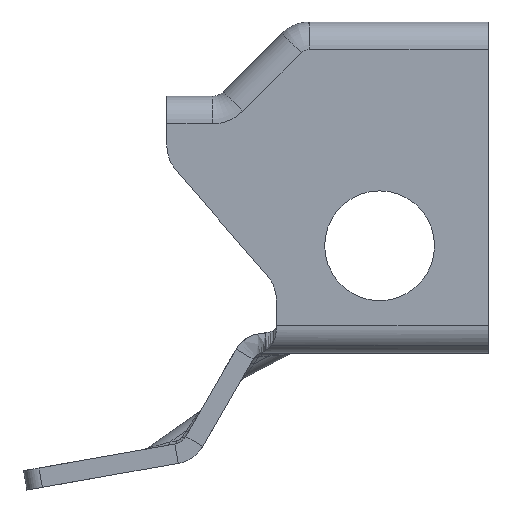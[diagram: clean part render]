
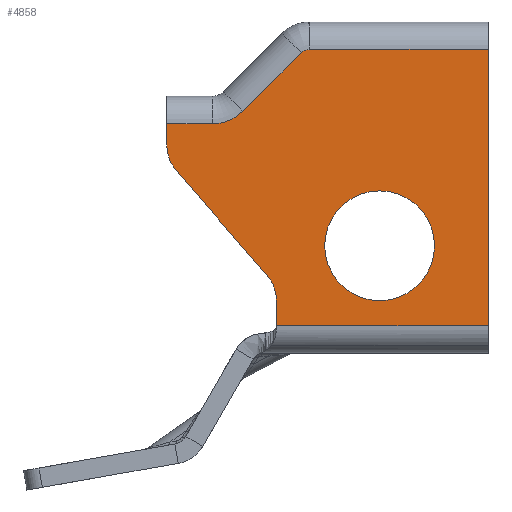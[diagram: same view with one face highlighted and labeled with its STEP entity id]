
A CAD part, front view. The second image highlights one B-rep face of the part: STEP entity #4858.
In plain terms, the highlighted planar face has unit normal (0, -1, 0).
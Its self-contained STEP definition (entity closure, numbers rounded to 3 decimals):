
#4054=VECTOR('Line Direction',#4053,1.) ;
#4693=VECTOR('Line Direction',#4692,1.) ;
#4736=VECTOR('Line Direction',#4735,1.) ;
#4759=VECTOR('Line Direction',#4758,1.) ;
#4773=VECTOR('Line Direction',#4772,1.) ;
#4780=VECTOR('Line Direction',#4779,1.) ;
#4794=VECTOR('Line Direction',#4793,1.) ;
#4806=VECTOR('Line Direction',#4805,1.) ;
#4053=DIRECTION('Vector Direction',(1.,0.,0.)) ;
#4692=DIRECTION('Vector Direction',(0.,0.,1.)) ;
#4730=DIRECTION('Axis2P3D Direction',(0.,1.,0.)) ;
#4731=DIRECTION('Axis2P3D XDirection',(-1.,0.,0.)) ;
#4735=DIRECTION('Vector Direction',(1.,0.,0.)) ;
#4744=DIRECTION('Axis2P3D Direction',(0.,1.,0.)) ;
#4751=DIRECTION('Axis2P3D Direction',(0.,1.,0.)) ;
#4758=DIRECTION('Vector Direction',(0.707,0.,0.707)) ;
#4765=DIRECTION('Axis2P3D Direction',(0.,1.,0.)) ;
#4772=DIRECTION('Vector Direction',(-1.,0.,0.)) ;
#4779=DIRECTION('Vector Direction',(0.,0.,1.)) ;
#4786=DIRECTION('Axis2P3D Direction',(0.,1.,0.)) ;
#4793=DIRECTION('Vector Direction',(-0.654,0.,0.757)) ;
#4800=DIRECTION('Axis2P3D Direction',(0.,1.,0.)) ;
#4805=DIRECTION('Vector Direction',(0.,0.,1.)) ;
#4825=DIRECTION('Axis2P3D Direction',(0.,1.,0.)) ;
#4834=DIRECTION('Axis2P3D Direction',(0.,1.,0.)) ;
#4841=DIRECTION('Axis2P3D Direction',(0.,1.,0.)) ;
#4848=DIRECTION('Axis2P3D Direction',(0.,1.,0.)) ;
#3772=CARTESIAN_POINT('Vertex',(-441.207,-930.43,483.601)) ;
#4049=CARTESIAN_POINT('Vertex',(-414.207,-930.43,483.591)) ;
#4052=CARTESIAN_POINT('Line Origine',(-433.207,-930.43,483.598)) ;
#4691=CARTESIAN_POINT('Line Origine',(-441.207,-930.43,485.17)) ;
#4695=CARTESIAN_POINT('Vertex',(-441.206,-930.43,486.739)) ;
#4729=CARTESIAN_POINT('Axis2P3D Location',(-31.645,-930.426,385.347)) ;
#4734=CARTESIAN_POINT('Line Origine',(-425.604,-930.43,518.823)) ;
#4738=CARTESIAN_POINT('Vertex',(-414.195,-930.43,518.819)) ;
#4740=CARTESIAN_POINT('Vertex',(-437.014,-930.43,518.827)) ;
#4743=CARTESIAN_POINT('Axis2P3D Location',(-437.014,-930.43,517.327)) ;
#4747=CARTESIAN_POINT('Vertex',(-437.032,-930.43,518.827)) ;
#4750=CARTESIAN_POINT('Axis2P3D Location',(-437.014,-930.43,517.327)) ;
#4754=CARTESIAN_POINT('Vertex',(-438.075,-930.43,518.388)) ;
#4757=CARTESIAN_POINT('Line Origine',(-441.795,-930.43,514.67)) ;
#4761=CARTESIAN_POINT('Vertex',(-445.516,-930.43,510.952)) ;
#4764=CARTESIAN_POINT('Axis2P3D Location',(-449.403,-930.43,514.843)) ;
#4768=CARTESIAN_POINT('Vertex',(-449.405,-930.43,509.343)) ;
#4771=CARTESIAN_POINT('Line Origine',(-452.302,-930.43,509.344)) ;
#4775=CARTESIAN_POINT('Vertex',(-455.198,-930.43,509.345)) ;
#4778=CARTESIAN_POINT('Line Origine',(-455.199,-930.43,508.)) ;
#4782=CARTESIAN_POINT('Vertex',(-455.199,-930.43,506.656)) ;
#4785=CARTESIAN_POINT('Axis2P3D Location',(-450.199,-930.43,506.654)) ;
#4789=CARTESIAN_POINT('Vertex',(-453.982,-930.43,503.385)) ;
#4792=CARTESIAN_POINT('Line Origine',(-448.203,-930.43,496.697)) ;
#4796=CARTESIAN_POINT('Vertex',(-442.423,-930.43,490.01)) ;
#4799=CARTESIAN_POINT('Axis2P3D Location',(-446.206,-930.43,486.74)) ;
#4804=CARTESIAN_POINT('Line Origine',(-414.201,-930.43,501.205)) ;
#4824=CARTESIAN_POINT('Axis2P3D Location',(-428.071,-930.43,493.796)) ;
#4828=CARTESIAN_POINT('Vertex',(-428.071,-930.43,486.796)) ;
#4830=CARTESIAN_POINT('Vertex',(-421.071,-930.43,493.796)) ;
#4833=CARTESIAN_POINT('Axis2P3D Location',(-428.071,-930.43,493.796)) ;
#4837=CARTESIAN_POINT('Vertex',(-435.071,-930.43,493.796)) ;
#4840=CARTESIAN_POINT('Axis2P3D Location',(-428.071,-930.43,493.796)) ;
#4844=CARTESIAN_POINT('Vertex',(-428.071,-930.43,500.796)) ;
#4847=CARTESIAN_POINT('Axis2P3D Location',(-428.071,-930.43,493.796)) ;
#4732=AXIS2_PLACEMENT_3D('Plane Axis2P3D',#4729,#4730,#4731) ;
#4745=AXIS2_PLACEMENT_3D('Circle Axis2P3D',#4743,#4744,$) ;
#4752=AXIS2_PLACEMENT_3D('Circle Axis2P3D',#4750,#4751,$) ;
#4766=AXIS2_PLACEMENT_3D('Circle Axis2P3D',#4764,#4765,$) ;
#4787=AXIS2_PLACEMENT_3D('Circle Axis2P3D',#4785,#4786,$) ;
#4801=AXIS2_PLACEMENT_3D('Circle Axis2P3D',#4799,#4800,$) ;
#4826=AXIS2_PLACEMENT_3D('Circle Axis2P3D',#4824,#4825,$) ;
#4835=AXIS2_PLACEMENT_3D('Circle Axis2P3D',#4833,#4834,$) ;
#4842=AXIS2_PLACEMENT_3D('Circle Axis2P3D',#4840,#4841,$) ;
#4849=AXIS2_PLACEMENT_3D('Circle Axis2P3D',#4847,#4848,$) ;
#4857=FACE_BOUND('',#4852,.T.) ;
#4056=EDGE_CURVE('',#3773,#4050,#4055,.T.) ;
#4697=EDGE_CURVE('',#3773,#4696,#4694,.T.) ;
#4742=EDGE_CURVE('',#4739,#4741,#4737,.F.) ;
#4749=EDGE_CURVE('',#4741,#4748,#4746,.F.) ;
#4756=EDGE_CURVE('',#4748,#4755,#4753,.F.) ;
#4763=EDGE_CURVE('',#4755,#4762,#4760,.F.) ;
#4770=EDGE_CURVE('',#4762,#4769,#4767,.T.) ;
#4777=EDGE_CURVE('',#4769,#4776,#4774,.T.) ;
#4784=EDGE_CURVE('',#4776,#4783,#4781,.F.) ;
#4791=EDGE_CURVE('',#4790,#4783,#4788,.T.) ;
#4798=EDGE_CURVE('',#4797,#4790,#4795,.T.) ;
#4803=EDGE_CURVE('',#4797,#4696,#4802,.T.) ;
#4808=EDGE_CURVE('',#4050,#4739,#4807,.T.) ;
#4832=EDGE_CURVE('',#4829,#4831,#4827,.F.) ;
#4839=EDGE_CURVE('',#4838,#4829,#4836,.F.) ;
#4846=EDGE_CURVE('',#4838,#4845,#4843,.T.) ;
#4851=EDGE_CURVE('',#4845,#4831,#4850,.T.) ;
#4733=PLANE('Plane',#4732) ;
#4810=ORIENTED_EDGE('',*,*,#4742,.T.) ;
#4811=ORIENTED_EDGE('',*,*,#4749,.T.) ;
#4812=ORIENTED_EDGE('',*,*,#4756,.T.) ;
#4813=ORIENTED_EDGE('',*,*,#4763,.T.) ;
#4814=ORIENTED_EDGE('',*,*,#4770,.T.) ;
#4815=ORIENTED_EDGE('',*,*,#4777,.T.) ;
#4816=ORIENTED_EDGE('',*,*,#4784,.T.) ;
#4817=ORIENTED_EDGE('',*,*,#4791,.F.) ;
#4818=ORIENTED_EDGE('',*,*,#4798,.F.) ;
#4819=ORIENTED_EDGE('',*,*,#4803,.T.) ;
#4820=ORIENTED_EDGE('',*,*,#4697,.F.) ;
#4821=ORIENTED_EDGE('',*,*,#4056,.T.) ;
#4822=ORIENTED_EDGE('',*,*,#4808,.T.) ;
#4853=ORIENTED_EDGE('',*,*,#4832,.F.) ;
#4854=ORIENTED_EDGE('',*,*,#4839,.F.) ;
#4855=ORIENTED_EDGE('',*,*,#4846,.T.) ;
#4856=ORIENTED_EDGE('',*,*,#4851,.T.) ;
#4055=LINE('Line',#4052,#4054) ;
#4694=LINE('Line',#4691,#4693) ;
#4737=LINE('Line',#4734,#4736) ;
#4760=LINE('Line',#4757,#4759) ;
#4774=LINE('Line',#4771,#4773) ;
#4781=LINE('Line',#4778,#4780) ;
#4795=LINE('Line',#4792,#4794) ;
#4807=LINE('Line',#4804,#4806) ;
#4858=ADVANCED_FACE('\X2\96F64EF651E04F554F53\X0\',(#4823,#4857),#4733,.F.) ;
#4746=CIRCLE('generated circle',#4745,1.5) ;
#4753=CIRCLE('generated circle',#4752,1.5) ;
#4767=CIRCLE('generated circle',#4766,5.5) ;
#4788=CIRCLE('generated circle',#4787,5.) ;
#4802=CIRCLE('generated circle',#4801,5.) ;
#4827=CIRCLE('generated circle',#4826,7.) ;
#4836=CIRCLE('generated circle',#4835,7.) ;
#4843=CIRCLE('generated circle',#4842,7.) ;
#4850=CIRCLE('generated circle',#4849,7.) ;
#3773=VERTEX_POINT('',#3772) ;
#4050=VERTEX_POINT('',#4049) ;
#4696=VERTEX_POINT('',#4695) ;
#4739=VERTEX_POINT('',#4738) ;
#4741=VERTEX_POINT('',#4740) ;
#4748=VERTEX_POINT('',#4747) ;
#4755=VERTEX_POINT('',#4754) ;
#4762=VERTEX_POINT('',#4761) ;
#4769=VERTEX_POINT('',#4768) ;
#4776=VERTEX_POINT('',#4775) ;
#4783=VERTEX_POINT('',#4782) ;
#4790=VERTEX_POINT('',#4789) ;
#4797=VERTEX_POINT('',#4796) ;
#4829=VERTEX_POINT('',#4828) ;
#4831=VERTEX_POINT('',#4830) ;
#4838=VERTEX_POINT('',#4837) ;
#4845=VERTEX_POINT('',#4844) ;
#4809=EDGE_LOOP('',(#4810,#4811,#4812,#4813,#4814,#4815,#4816,#4817,#4818,#4819,#4820,#4821,#4822)) ;
#4852=EDGE_LOOP('',(#4853,#4854,#4855,#4856)) ;
#4823=FACE_OUTER_BOUND('',#4809,.T.) ;
